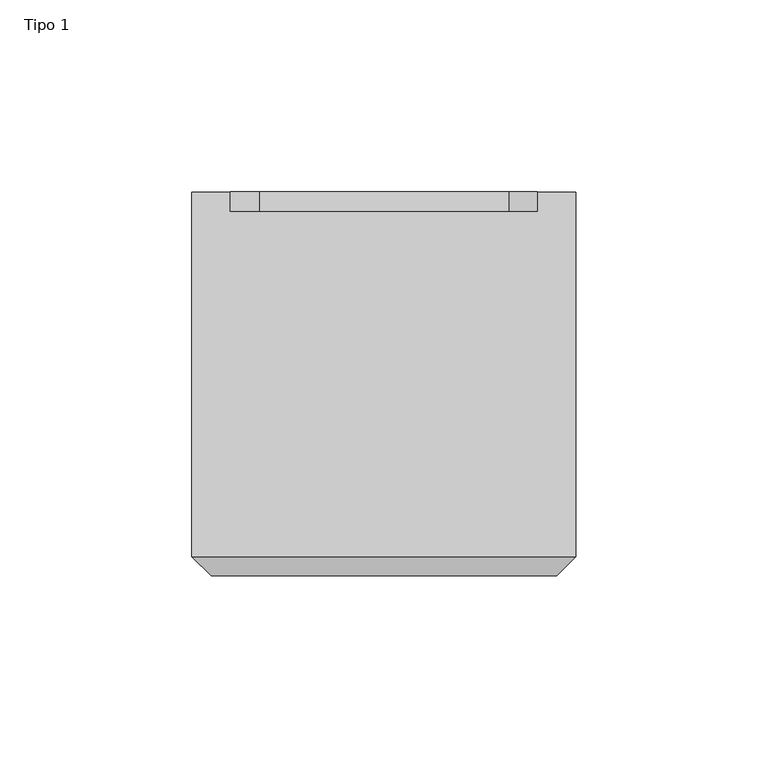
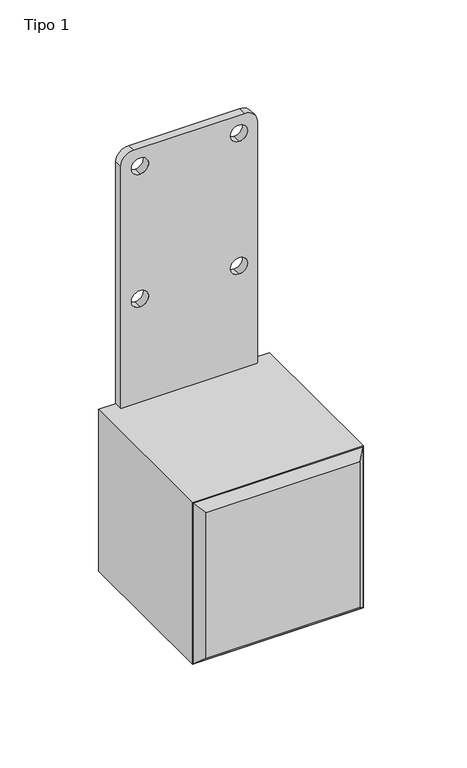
"""IFC4 building model written with IfcOpenShell, lengths in millimetres: proxy geometry, Ercole ANGOLARE verticale : Tipo 1."""

import ifcopenshell
import ifcopenshell.guid

model = None  # the IFC model being written
_history = None  # IfcOwnerHistory: only IFC2X3 demands one
_inside = {}  # id of a spatial element -> (the spatial element, [elements in it])
_under = {}  # id of a project, library or spatial element -> (it, [spatial elements below it])
_declared = {}  # id of a project -> (the project, [libraries it declares])
_typed = {}  # id of a type object -> (the type object, [elements of that type])
_made_of = {}  # id of a material, layer set ... -> (it, [elements and type objects made of it])


def new_model(schema):
    """Start an empty IFC model of exactly this schema.

    Asked for "IFC4X3", IfcOpenShell would pick the latest addendum, in which some entities
    have other attributes; the version numbers below select the first issue.
    IFC2X3 requires an IfcOwnerHistory on every rooted entity: one is made here for all.
    """
    global model, _history
    if schema == "IFC4X3":
        model = ifcopenshell.file(schema_version=(4, 3, 0, 0))
    else:
        model = ifcopenshell.file(schema=schema)
    _inside.clear()
    _under.clear()
    _declared.clear()
    _typed.clear()
    _made_of.clear()
    _history = None
    if model.schema == "IFC2X3":
        org = make("IfcOrganization", Name="unknown")
        user = make(
            "IfcPersonAndOrganization",
            ThePerson=make("IfcPerson", FamilyName="unknown"),
            TheOrganization=org,
        )
        app = make(
            "IfcApplication",
            ApplicationDeveloper=org,
            Version="unknown",
            ApplicationFullName="unknown",
            ApplicationIdentifier="unknown",
        )
        _history = make(
            "IfcOwnerHistory",
            OwningUser=user,
            OwningApplication=app,
            ChangeAction="ADDED",
            CreationDate=0,
        )
    return model


def make(cls, **values):
    """One entity of the class cls with the attributes given. An attribute that is None is left unset."""
    return model.create_entity(
        cls, **{name: value for name, value in values.items() if value is not None}
    )


def rooted(cls, **values):
    """An entity with a GlobalId (a new one), such as an element, a storey or a relation."""
    return make(cls, GlobalId=ifcopenshell.guid.new(), OwnerHistory=_history, **values)


def si_unit(unit_type, name, prefix=None):
    """IfcSIUnit, for example si_unit("LENGTHUNIT", "METRE", prefix="MILLI")."""
    return make("IfcSIUnit", UnitType=unit_type, Prefix=prefix, Name=name)


def assignment(units):
    """IfcUnitAssignment: the units of a project."""
    return None if units is None else make("IfcUnitAssignment", Units=units)


def point(xyz):
    """IfcCartesianPoint."""
    return None if xyz is None else make("IfcCartesianPoint", Coordinates=xyz)


def direction(xyz):
    """IfcDirection."""
    return None if xyz is None else make("IfcDirection", DirectionRatios=xyz)


def frame(location, z_axis=None, x_axis=None):
    """IfcAxis2Placement3D, a coordinate frame: its origin and axes. An axis left out is left unset."""
    return make(
        "IfcAxis2Placement3D",
        Location=point(location),
        Axis=direction(z_axis),
        RefDirection=direction(x_axis),
    )


def frame_2d(location, x_axis=None):
    """IfcAxis2Placement2D, a coordinate frame in the plane: its origin and x axis."""
    return make(
        "IfcAxis2Placement2D", Location=point(location), RefDirection=direction(x_axis)
    )


def origin():
    """The frame at (0, 0, 0) with its axes left unset."""
    return frame((0.0, 0.0, 0.0))


def place(relative_to, where):
    """IfcLocalPlacement: puts the frame where relative to a parent placement (None: the world)."""
    return make(
        "IfcLocalPlacement", PlacementRelTo=relative_to, RelativePlacement=where
    )


def context(
    kind, dimensions, precision=None, world=None, true_north=None, identifier=None
):
    """IfcGeometricRepresentationContext, for example the 3D "Model" context."""
    return make(
        "IfcGeometricRepresentationContext",
        ContextIdentifier=identifier,
        ContextType=kind,
        CoordinateSpaceDimension=dimensions,
        Precision=precision,
        WorldCoordinateSystem=world,
        TrueNorth=true_north,
    )


def project(units=None, contexts=None):
    """IfcProject with its units and contexts."""
    return rooted(
        "IfcProject",
        Name="project",
        RepresentationContexts=contexts,
        UnitsInContext=assignment(units),
    )


def spatial(cls, under=None, at=None, **own):
    """A site, building, storey or space (cls), placed at a placement, below another one or the project."""
    s = rooted(cls, ObjectPlacement=at, **own)
    if under is not None:
        _under.setdefault(under.id(), (under, []))[1].append(s)
    return s


def polyline(points):
    """IfcPolyline through the points."""
    return make("IfcPolyline", Points=[point(p) for p in points])


def circle_curve(where, radius):
    """IfcCircle in the frame where."""
    return make("IfcCircle", Position=where, Radius=radius)


def trimmed(basis, trim1, trim2, sense, master):
    """IfcTrimmedCurve: the piece of a basis curve between two trims."""
    return make(
        "IfcTrimmedCurve",
        BasisCurve=basis,
        Trim1=trim1,
        Trim2=trim2,
        SenseAgreement=sense,
        MasterRepresentation=master,
    )


def segment(curve, same_sense, transition):
    """IfcCompositeCurveSegment."""
    return make(
        "IfcCompositeCurveSegment",
        Transition=transition,
        SameSense=same_sense,
        ParentCurve=curve,
    )


def composite_curve(segments, self_intersect=None):
    """IfcCompositeCurve: segments joined end to end."""
    return make("IfcCompositeCurve", Segments=segments, SelfIntersect=self_intersect)


def outline(outer, holes=None, kind="AREA"):
    """IfcArbitraryClosedProfileDef: a profile drawn as a closed curve; with holes, ...WithVoids."""
    if holes is None:
        return make("IfcArbitraryClosedProfileDef", ProfileType=kind, OuterCurve=outer)
    return make(
        "IfcArbitraryProfileDefWithVoids",
        ProfileType=kind,
        OuterCurve=outer,
        InnerCurves=holes,
    )


def extrude(swept, where, along, depth):
    """IfcExtrudedAreaSolid: the profile swept, set in the frame where, extruded along a direction by depth."""
    return make(
        "IfcExtrudedAreaSolid",
        SweptArea=swept,
        Position=where,
        ExtrudedDirection=direction(along),
        Depth=depth,
    )


def faces_of(points, faces, orient=None, outer=None):
    """IfcFace entities. A face is a list of loops; a loop is a list of indices into points, from 0.

    orient and outer hold one flag for each loop. By default every Orientation is true, the
    first loop of a face is its IfcFaceOuterBound and the others are IfcFaceBound.
    """
    made = []
    for i, loops in enumerate(faces):
        bounds = []
        for j, loop in enumerate(loops):
            is_outer = j == 0 if outer is None else outer[i][j]
            bounds.append(
                make(
                    "IfcFaceOuterBound" if is_outer else "IfcFaceBound",
                    Bound=make("IfcPolyLoop", Polygon=[points[k] for k in loop]),
                    Orientation=True if orient is None else orient[i][j],
                )
            )
        made.append(make("IfcFace", Bounds=bounds))
    return made


def faceted_brep(points, faces, orient=None, outer=None, voids=None):
    """IfcFacetedBrep: a solid bounded by flat faces; with voids (closed shells), ...WithVoids."""
    shared = [point(p) for p in points]
    hull = make("IfcClosedShell", CfsFaces=faces_of(shared, faces, orient, outer))
    if voids is None:
        return make("IfcFacetedBrep", Outer=hull)
    return make(
        "IfcFacetedBrepWithVoids",
        Outer=hull,
        Voids=[
            make(cls, CfsFaces=faces_of(shared, fs, o, b)) for cls, fs, o, b in voids
        ],
    )


def shape(context_of_items, identifier, shape_type, items):
    """IfcShapeRepresentation: the items that make up one representation, for example the "Body"."""
    return make(
        "IfcShapeRepresentation",
        ContextOfItems=context_of_items,
        RepresentationIdentifier=identifier,
        RepresentationType=shape_type,
        Items=items,
    )


def source(mapping_origin, context_of_items, identifier, shape_type, items):
    """IfcRepresentationMap: a shape defined once, which mapped items show again and again."""
    return make(
        "IfcRepresentationMap",
        MappingOrigin=mapping_origin,
        MappedRepresentation=shape(context_of_items, identifier, shape_type, items),
    )


def transform(
    local_origin,
    x_axis=None,
    y_axis=None,
    z_axis=None,
    scale=None,
    scale2=None,
    scale3=None,
    uniform=True,
):
    """IfcCartesianTransformationOperator3D, or its non-uniform kind. x_axis, y_axis, z_axis: its Axis1, 2, 3."""
    if uniform:
        return make(
            "IfcCartesianTransformationOperator3D",
            Axis1=direction(x_axis),
            Axis2=direction(y_axis),
            LocalOrigin=point(local_origin),
            Scale=scale,
            Axis3=direction(z_axis),
        )
    return make(
        "IfcCartesianTransformationOperator3DnonUniform",
        Axis1=direction(x_axis),
        Axis2=direction(y_axis),
        LocalOrigin=point(local_origin),
        Scale=scale,
        Axis3=direction(z_axis),
        Scale2=scale2,
        Scale3=scale3,
    )


def mapped(mapping_source, mapping_target):
    """IfcMappedItem: shows the shape of a source again, moved by a transform."""
    return make(
        "IfcMappedItem", MappingSource=mapping_source, MappingTarget=mapping_target
    )


def made_of(thing, what):
    """Note that an element or type object is made of a material, layer set ...; save() writes the relation."""
    if what is not None:
        _made_of.setdefault(what.id(), (what, []))[1].append(thing)
    return thing


def element(
    cls,
    number,
    at=None,
    inside=None,
    cuts=None,
    type_object=None,
    material=None,
    context=None,
    identifier="Body",
    shape_type=None,
    held_by="IfcProductDefinitionShape",
    body=None,
    shapes=None,
    **own,
):
    """One element of the class cls, such as IfcWall. Its Tag is "e" and its number.

    at: its placement. inside: the storey or other place that contains it. cuts: it is an
    opening in that element (IfcRelVoidsElement). A single representation is given by context,
    identifier, shape_type and body (its items); several are given by shapes. held_by: the class
    of the entity that holds the representations. save() writes the other relations.
    """
    e = rooted(cls, Tag="e%d" % number, ObjectPlacement=at, **own)
    if body is not None:
        shapes = [shape(context, identifier, shape_type, body)]
    if shapes is not None:
        e.Representation = make(held_by, Representations=shapes)
    if inside is not None:
        _inside.setdefault(inside.id(), (inside, []))[1].append(e)
    if cuts is not None:
        rooted(
            "IfcRelVoidsElement", RelatingBuildingElement=cuts, RelatedOpeningElement=e
        )
    if type_object is not None:
        _typed.setdefault(type_object.id(), (type_object, []))[1].append(e)
    return made_of(e, material)


def aggregate(whole, parts):
    """IfcRelAggregates: a whole, such as a stair, and the parts it consists of."""
    return rooted("IfcRelAggregates", RelatingObject=whole, RelatedObjects=parts)


def save(model, path):
    """Write the relations noted so far, then the file.

    IfcRelAggregates (storeys below a building ...), IfcRelContainedInSpatialStructure (elements
    in a storey), IfcRelDefinesByType, IfcRelAssociatesMaterial and IfcRelDeclares: one each for
    every whole, place, type object, material and project.
    """
    for whole, parts in _under.values():
        aggregate(whole, parts)
    for where, things in _inside.values():
        rooted(
            "IfcRelContainedInSpatialStructure",
            RelatedElements=things,
            RelatingStructure=where,
        )
    for kind, things in _typed.values():
        rooted("IfcRelDefinesByType", RelatedObjects=things, RelatingType=kind)
    for what, things in _made_of.values():
        rooted("IfcRelAssociatesMaterial", RelatedObjects=things, RelatingMaterial=what)
    for by, libraries in _declared.values():
        rooted("IfcRelDeclares", RelatingContext=by, RelatedDefinitions=libraries)
    model.write(path)


def tipo_1_c14ef344(model_context):
    return source(origin(), model_context, "Body", "SolidModel", [
        extrude(outline(polyline([(175.0, -170.0), (75.0, -170.0), (75.0, -75.0), (85.0000271, -75.0), (85.0000271, -80.0), (164.9999729, -80.0), (164.9999729, -75.0), (175.0, -75.0), (175.0, -170.0)])), frame((0.0, 0.0, 629.7029033), z_axis=(0.0, 0.0, 1.0), x_axis=(1.0, 0.0, 0.0)), (0.0, 0.0, 1.0), 100.0),
        faceted_brep([(170.0, -175.0, 724.7029033), (80.0, -175.0, 724.7029033), (80.0, -175.0, 634.7029033), (170.0, -175.0, 634.7029033), (175.0, -170.0, 729.7029033), (175.0, -170.0, 629.7029033), (75.0, -170.0, 629.7029033), (75.0, -170.0, 729.7029033)], [[[0, 1, 2, 3]], [[4, 5, 6, 7]], [[5, 4, 0, 3]], [[6, 5, 3, 2]], [[7, 6, 2, 1]], [[4, 7, 1, 0]]]),
        extrude(outline(composite_curve([segment(polyline([(636.6140578, 92.5000271), (636.6140578, 157.4999729)]), True, "CONTINUOUS"), segment(trimmed(circle_curve(frame_2d((644.1140578, 157.4999729)), 7.5), [point((636.6140578, 157.4999729))], [point((644.1140578, 164.9999729))], False, "CARTESIAN"), True, "CONTINUOUS"), segment(polyline([(644.1140578, 164.9999729), (879.1136283, 164.9999729)]), True, "CONTINUOUS"), segment(trimmed(circle_curve(frame_2d((879.1136283, 157.4999729)), 7.5), [point((879.1136283, 164.9999729))], [point((886.6136283, 157.4999729))], False, "CARTESIAN"), True, "CONTINUOUS"), segment(polyline([(886.6136283, 157.4999729), (886.6136283, 92.5000271)]), True, "CONTINUOUS"), segment(trimmed(circle_curve(frame_2d((879.1136283, 92.5000271)), 7.5), [point((886.6136283, 92.5000271))], [point((879.1136283, 85.0000271))], False, "CARTESIAN"), True, "CONTINUOUS"), segment(polyline([(879.1136283, 85.0000271), (644.1140578, 85.0000271)]), True, "CONTINUOUS"), segment(trimmed(circle_curve(frame_2d((644.1140578, 92.5000271)), 7.5), [point((644.1140578, 85.0000271))], [point((636.6140578, 92.5000271))], False, "CARTESIAN"), True, "CONTINUOUS")], self_intersect=False), holes=[composite_curve([segment(trimmed(circle_curve(frame_2d((793.624201, 96.2452205)), 5.0), [point((788.624201, 96.2452205))], [point((798.624201, 96.2452205))], True, "CARTESIAN"), True, "CONTINUOUS"), segment(trimmed(circle_curve(frame_2d((793.624201, 96.2452205)), 5.0), [point((798.624201, 96.2452205))], [point((788.624201, 96.2452205))], True, "CARTESIAN"), True, "CONTINUOUS")], self_intersect=False), composite_curve([segment(trimmed(circle_curve(frame_2d((793.6197808, 154.2454872)), 5.0), [point((788.6197808, 154.2454872))], [point((798.6197808, 154.2454872))], True, "CARTESIAN"), True, "CONTINUOUS"), segment(trimmed(circle_curve(frame_2d((793.6197808, 154.2454872)), 5.0), [point((798.6197808, 154.2454872))], [point((788.6197808, 154.2454872))], True, "CARTESIAN"), True, "CONTINUOUS")], self_intersect=False), composite_curve([segment(trimmed(circle_curve(frame_2d((657.7029033, 147.000016)), 3.5), [point((661.2029033, 147.000016))], [point((654.2029033, 147.000016))], True, "CARTESIAN"), True, "CONTINUOUS"), segment(trimmed(circle_curve(frame_2d((657.7029033, 147.000016)), 3.5), [point((654.2029033, 147.000016))], [point((661.2029033, 147.000016))], True, "CARTESIAN"), True, "CONTINUOUS")], self_intersect=False), composite_curve([segment(trimmed(circle_curve(frame_2d((657.7029512, 103.0003015)), 3.5), [point((661.2029512, 103.0003015))], [point((654.2029512, 103.0003015))], True, "CARTESIAN"), True, "CONTINUOUS"), segment(trimmed(circle_curve(frame_2d((657.7029512, 103.0003015)), 3.5), [point((654.2029512, 103.0003015))], [point((661.2029512, 103.0003015))], True, "CARTESIAN"), True, "CONTINUOUS")], self_intersect=False), composite_curve([segment(trimmed(circle_curve(frame_2d((701.7029033, 147.000016)), 3.5), [point((698.2029033, 147.000016))], [point((705.2029033, 147.000016))], True, "CARTESIAN"), True, "CONTINUOUS"), segment(trimmed(circle_curve(frame_2d((701.7029033, 147.000016)), 3.5), [point((705.2029033, 147.000016))], [point((698.2029033, 147.000016))], True, "CARTESIAN"), True, "CONTINUOUS")], self_intersect=False), composite_curve([segment(trimmed(circle_curve(frame_2d((701.7029512, 103.0003015)), 3.5), [point((705.2029512, 103.0003015))], [point((698.2029512, 103.0003015))], True, "CARTESIAN"), True, "CONTINUOUS"), segment(trimmed(circle_curve(frame_2d((701.7029512, 103.0003015)), 3.5), [point((698.2029512, 103.0003015))], [point((705.2029512, 103.0003015))], True, "CARTESIAN"), True, "CONTINUOUS")], self_intersect=False), composite_curve([segment(trimmed(circle_curve(frame_2d((875.6137575, 154.2454651)), 5.0), [point((870.6137575, 154.2454651))], [point((880.6137575, 154.2454651))], True, "CARTESIAN"), True, "CONTINUOUS"), segment(trimmed(circle_curve(frame_2d((875.6137575, 154.2454651)), 5.0), [point((880.6137575, 154.2454651))], [point((870.6137575, 154.2454651))], True, "CARTESIAN"), True, "CONTINUOUS")], self_intersect=False), composite_curve([segment(trimmed(circle_curve(frame_2d((875.6093374, 96.2451984)), 5.0), [point((880.6093374, 96.2451984))], [point((870.6093374, 96.2451984))], True, "CARTESIAN"), True, "CONTINUOUS"), segment(trimmed(circle_curve(frame_2d((875.6093374, 96.2451984)), 5.0), [point((870.6093374, 96.2451984))], [point((880.6093374, 96.2451984))], True, "CARTESIAN"), True, "CONTINUOUS")], self_intersect=False)]), frame((0.0, -80.0, 0.0), z_axis=(0.0, 1.0, 0.0), x_axis=(0.0, 0.0, 1.0)), (0.0, 0.0, 1.0), 5.0),
    ])


if __name__ == "__main__":
    model = new_model("IFC4")
    model_context = context("Model", 3, world=origin())
    ifc_project = project(units=[si_unit("LENGTHUNIT", "METRE", prefix="MILLI")], contexts=[model_context])
    site = spatial("IfcSite", under=ifc_project)
    building = spatial("IfcBuilding", under=site)
    placement = place(None, origin())
    tipo_1_shape = tipo_1_c14ef344(model_context)
    element("IfcBuildingElementProxy", 1, Name="Ercole ANGOLARE verticale : Tipo 1", ObjectType="Ercole ANGOLARE verticale : Tipo 1", at=placement, inside=building, context=model_context, shape_type="MappedRepresentation", body=[
        mapped(tipo_1_shape, transform((0.0, 0.0, 0.0), x_axis=(1.0, 0.0, 0.0), y_axis=(0.0, 1.0, 0.0), z_axis=(0.0, 0.0, 1.0))),
    ])
    save(model, "model.ifc")
